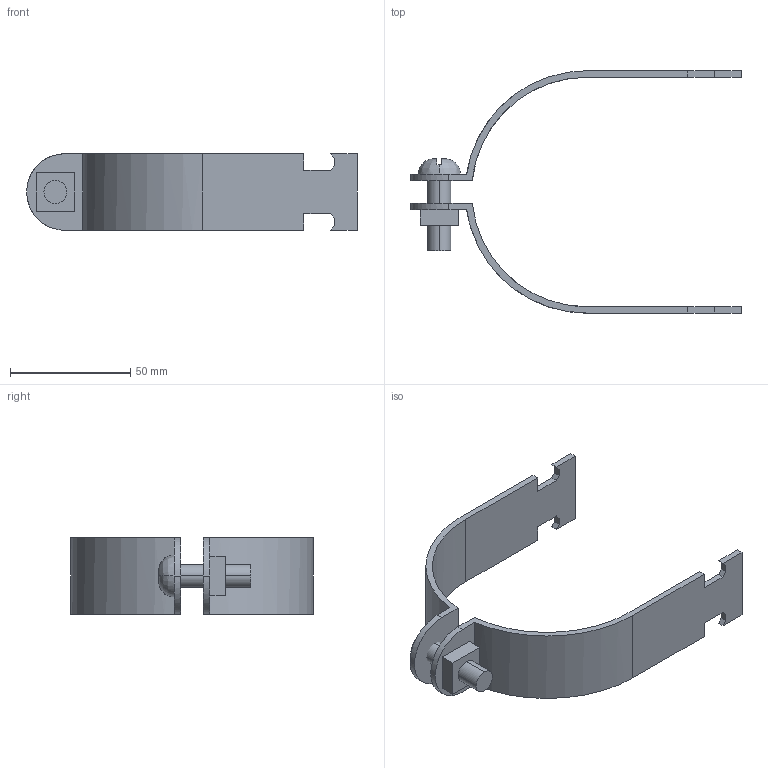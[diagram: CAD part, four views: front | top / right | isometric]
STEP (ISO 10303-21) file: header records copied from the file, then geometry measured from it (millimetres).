
FILE_DESCRIPTION(('TurboCAD Mac Pro'),'Build 980');
FILE_NAME('P2052.stp',' ',(''),(''),'ACIS Interop','IMSI','TurboCAD Mac Pro BY IMSI, INCORPORATED');
FILE_SCHEMA(('automotive_design'));
Length unit declared in the file: inch
Products named in the file (5): 1; 2; 3; 4; 5
Bounding box: 137.3 x 100.6 x 31.74 mm (x, y, z)
Volume: 30018.5 mm3; surface area: 23905.3 mm2
Topology: 4 solids, 4 shells, 71 faces, 186 edges, 124 vertices
Faces by surface type: plane 51, bspline 20
Entity records: 3435 total; most frequent: CARTESIAN_POINT 1034, ORIENTED_EDGE 372, DIRECTION 258, EDGE_CURVE 186, LINE 138, VECTOR 138, VERTEX_POINT 124, STYLED_ITEM 87
